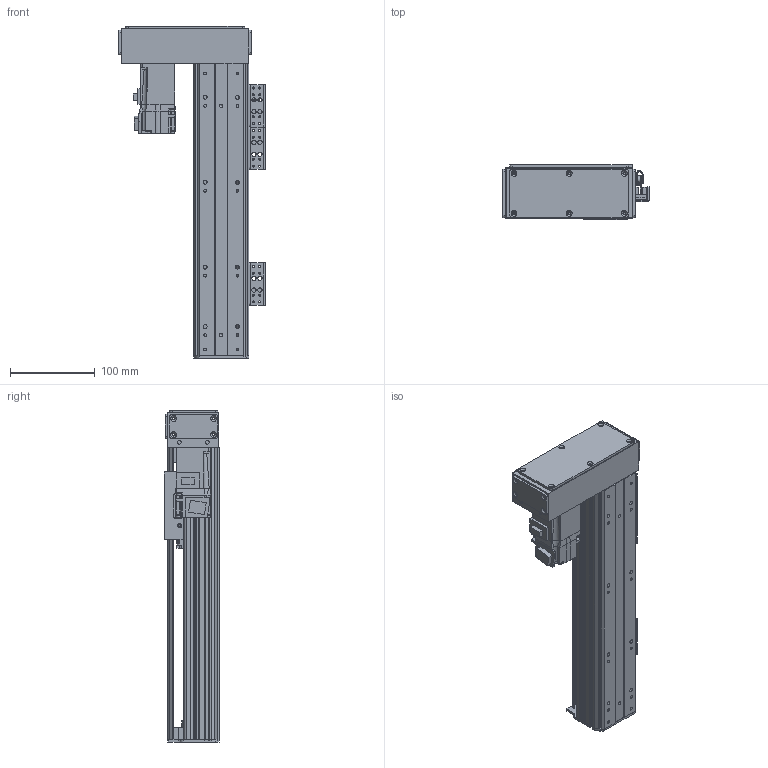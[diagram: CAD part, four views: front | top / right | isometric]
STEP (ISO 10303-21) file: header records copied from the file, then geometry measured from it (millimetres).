
FILE_DESCRIPTION(/* description */ ('MANUFACTURE'),/* implementation_level */ '2;1');
FILE_NAME(/* name */ '\\192.168.0.160\disk1\HAN SHIN Master\B-설계부문\C-표준\B-2024년\BC02-표준도면\+로봇 개선표준도면\표준 승인도 폴더 - 재작업\3D\HG65\병렬-L\HG65-L10-N-0200-R10.stp',/* time_stamp */ '2024-03-05T15:20:29+09:00',/* author */ ('User'),/* organization */ (''),/* preprocessor_version */ 'ST-DEVELOPER v18.1',/* originating_system */ 'Autodesk Inventor 2022',/* authorisation */ 'LIP');
FILE_SCHEMA (('AUTOMOTIVE_DESIGN { 1 0 10303 214 3 1 1 }'));
Products named in the file (22): HG65-L10-N-0500-R10 - 간소화; HR65 R BASE; HR65,75 SENSOR DOG; HR65 REAR COVER; HR65 FRONT BLOCK; HR65 FRONT BLOCK_1; hsr_ftht_A-M6F_grease_nipple_joint; HR65 UPCOVER (S); NIPPLE CAP(신규); HC1STOPPER; HR65 L,R MOTOR PLATE (100W)-사출; MOTOR PLATE-100W(MITSUBISHI); hg-kr13_; 화살표; HR65-LR-BELT COVER; HR65-BELT COVER-COVER; HR65-BELT COVER-COVER2; HR65-BELT COVER-COVER3; HR65 TABLE(Wide&Normal); ESF1210 NUT; SENSOR BRK(EE-SX674A); EE_SX674A
Assembly tree (34 placements, depth 2):
  HG65-L10-N-0500-R10 - 간소화
    HR65 R BASE
    HR65,75 SENSOR DOG
    SENSOR BRK(EE-SX674A)  x3
    EE_SX674A  x3
    HR65 REAR COVER
    HR65 FRONT BLOCK
    HR65 FRONT BLOCK_1
    HC1STOPPER  x4
    hsr_ftht_A-M6F_grease_nipple_joint  x3
    HR65 UPCOVER (S)
    NIPPLE CAP(신규)  x3
    HR65 L,R MOTOR PLATE (100W)-사출
    MOTOR PLATE-100W(MITSUBISHI)
    hg-kr13_
    화살표  x2
    HR65-LR-BELT COVER
    HR65-BELT COVER-COVER
    HR65-BELT COVER-COVER2
    HR65-BELT COVER-COVER3  x2
    HR65 TABLE(Wide&Normal)
    ESF1210 NUT
Bounding box: 172 x 65 x 391 mm (x, y, z)
Volume: 773777.6 mm3; surface area: 386255.2 mm2
Topology: 34 solids, 34 shells, 2679 faces, 7384 edges, 4860 vertices
Faces by surface type: plane 1782, cylinder 657, cone 177, sphere 24, bspline 21, torus 18
Full cylindrical faces by diameter (mm): 2.459 x74, 3 x18, 3.242 x40, 3.4 x32, 3.5 x14, 4 x14, 4.134 x1, 4.5 x39, 4.917 x5, 5 x12, 5.6 x5, 5.9 x2, 6 x15, 6.5 x10, 8 x10, 9 x4, 10 x1, 12 x1, 15 x1, 16 x1, 17 x1, 22 x2, 24 x1, 24.5 x1, 28 x2, 29.4 x1, 30 x2
Entity records: 75948 total; most frequent: CARTESIAN_POINT 14876, ORIENTED_EDGE 12536, DIRECTION 11987, EDGE_CURVE 6268, LINE 4847, VECTOR 4847, VERTEX_POINT 4159, AXIS2_PLACEMENT_3D 3570
